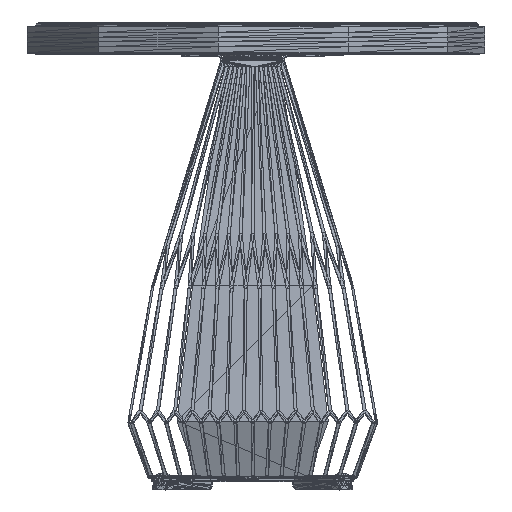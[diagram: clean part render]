
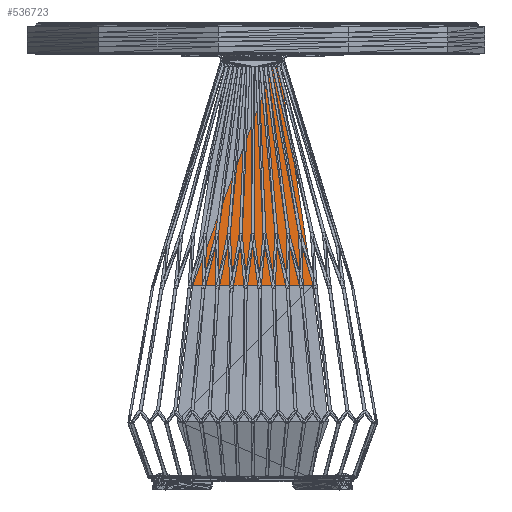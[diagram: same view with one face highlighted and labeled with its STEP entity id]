
A CAD part, top view. The second image highlights one B-rep face of the part: STEP entity #536723.
In plain terms, the highlighted planar face has unit normal (0, 0.149, 0.989).
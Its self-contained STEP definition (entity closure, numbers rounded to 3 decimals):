
#532717 = VERTEX_POINT('',#532718);
#532718 = CARTESIAN_POINT('',(-49.14,-17.477,
    -175.75));
#532796 = VERTEX_POINT('',#532797);
#532797 = CARTESIAN_POINT('',(-133.639,-246.477,
    -141.25));
#536603 = VERTEX_POINT('',#536604);
#536604 = CARTESIAN_POINT('',(-14.64,-246.477,
    -141.25));
#536610 = EDGE_CURVE('',#536603,#532796,#536611,.T.);
#536611 = LINE('',#536612,#536613);
#536612 = CARTESIAN_POINT('',(-14.64,-246.477,
    -141.25));
#536613 = VECTOR('',#536614,1.);
#536614 = DIRECTION('',(-1.,0.,0.));
#536712 = EDGE_CURVE('',#532796,#532717,#536713,.T.);
#536713 = LINE('',#536714,#536715);
#536714 = CARTESIAN_POINT('',(-133.639,-246.477,
    -141.25));
#536715 = VECTOR('',#536716,1.);
#536716 = DIRECTION('',(0.343,0.929,-0.14));
#536723 = ADVANCED_FACE('',(#536724),#536734,.T.);
#536724 = FACE_BOUND('',#536725,.T.);
#536725 = EDGE_LOOP('',(#536726,#536727,#536728));
#536726 = ORIENTED_EDGE('',*,*,#536712,.F.);
#536727 = ORIENTED_EDGE('',*,*,#536610,.F.);
#536728 = ORIENTED_EDGE('',*,*,#536729,.T.);
#536729 = EDGE_CURVE('',#536603,#532717,#536730,.T.);
#536730 = LINE('',#536731,#536732);
#536731 = CARTESIAN_POINT('',(-14.64,-246.477,
    -141.25));
#536732 = VECTOR('',#536733,1.);
#536733 = DIRECTION('',(-0.147,0.978,-0.147)
  );
#536734 = PLANE('',#536735);
#536735 = AXIS2_PLACEMENT_3D('',#536736,#536737,#536738);
#536736 = CARTESIAN_POINT('',(-64.734,-154.699,
    -155.076));
#536737 = DIRECTION('',(0.,0.149,0.989));
#536738 = DIRECTION('',(0.,0.989,-0.149));
